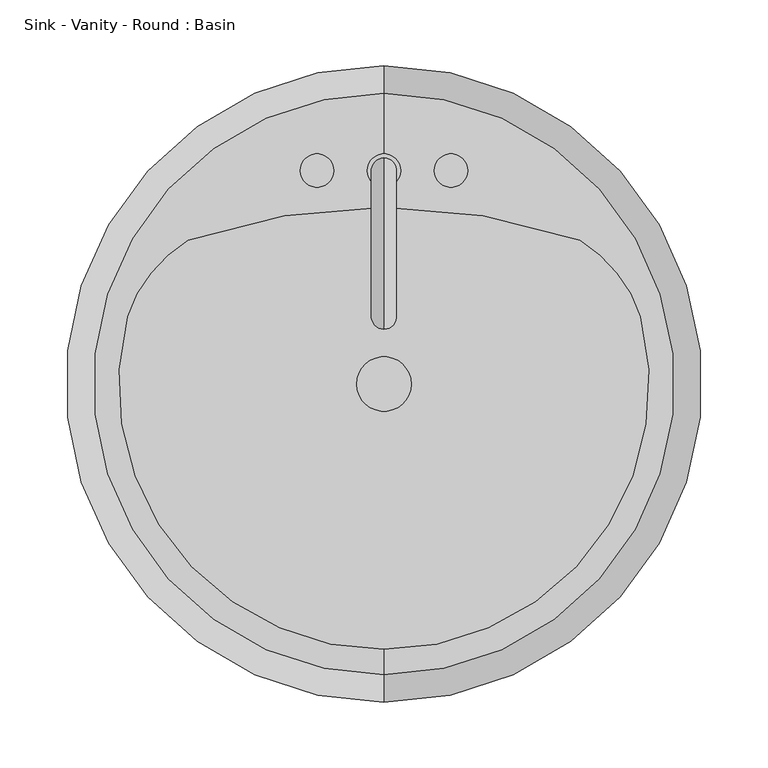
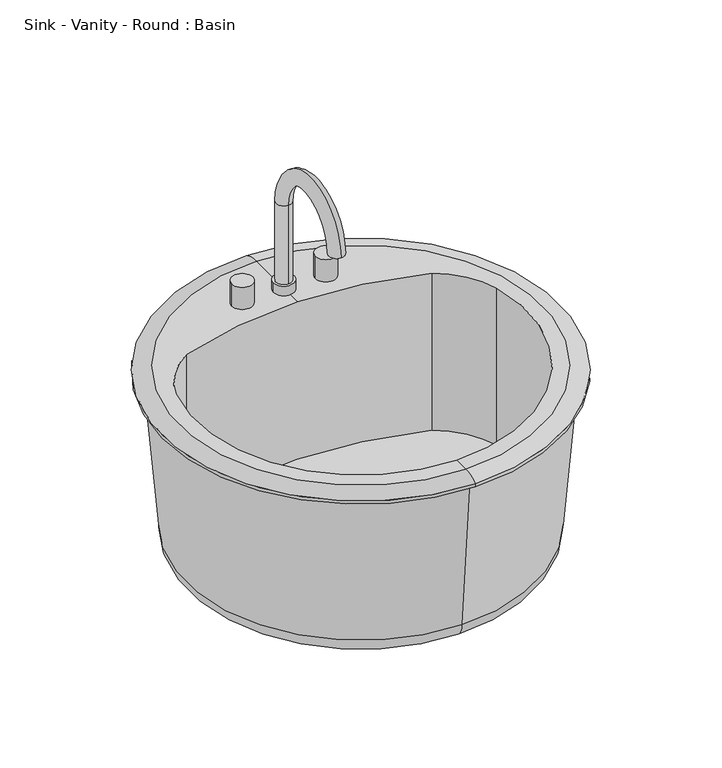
"""IFC4 building model written with IfcOpenShell, lengths in millimetres: flow terminal geometry, Sink - Vanity - Round : Basin."""

from ifc_helpers import new_model, si_unit, point, frame, frame_2d, origin, place, context, project, spatial, polyline, circle_curve, ellipse_curve, trimmed, segment, composite_curve, outline, extrude, source, transform, mapped, element, save
from ifc_brep_helpers import plane_surface, cylinder_surface, revolved_surface, advanced_brep


def sink_vanity_round_basin_6ecf7a68(model_context):
    return source(origin(), model_context, "Body", "SolidModel", [
        advanced_brep(
        [(96.6517406, 237.5677185, 794.525), (96.6517406, 256.6177185, 794.525), (96.6517406, 237.5677185, 907.2375), (96.6517406, 256.6177185, 907.2375), (96.6517406, 145.7775038, 907.2375), (96.6517406, 126.7275038, 907.2375)],
        [
            (0, 1, circle_curve(frame((96.6517406, 247.0927185, 794.525), z_axis=(0.0, 0.0, -1.0), x_axis=(0.0, 1.0, 0.0)), 9.525)),
            (1, 0, circle_curve(frame((96.6517406, 247.0927185, 794.525), z_axis=(0.0, 0.0, -1.0), x_axis=(0.0, 1.0, 0.0)), 9.525)),
            (0, 2),
            (2, 3, circle_curve(frame((96.6517406, 247.0927185, 907.2375), z_axis=(0.0, 0.0, -1.0), x_axis=(0.0, 1.0, 0.0)), 9.525)),
            (3, 1),
            (3, 2, circle_curve(frame((96.6517406, 247.0927185, 907.2375), z_axis=(0.0, 0.0, -1.0), x_axis=(0.0, 1.0, 0.0)), 9.525)),
            (4, 5, circle_curve(frame((96.6517406, 136.2525038, 907.2375), z_axis=(0.0, 0.0, -1.0), x_axis=(0.0, -1.0, 0.0)), 9.525)),
            (5, 4, circle_curve(frame((96.6517406, 136.2525038, 907.2375), z_axis=(0.0, 0.0, -1.0), x_axis=(0.0, -1.0, 0.0)), 9.525)),
            (5, 3, circle_curve(frame((96.6517406, 191.6726112, 907.2375), z_axis=(-1.0, 0.0, 0.0), x_axis=(0.0, 1.0, 0.0)), 64.9451073)),
            (2, 4, circle_curve(frame((96.6517406, 191.6726112, 907.2375), z_axis=(1.0, 0.0, 0.0), x_axis=(0.0, 1.0, 0.0)), 45.8951073)),
        ],
        [
            plane_surface(frame((96.6517406, 237.5677185, 794.525), z_axis=(0.0, 0.0, -1.0), x_axis=(1.0, 0.0, 0.0))),
            cylinder_surface(frame((96.6517406, 247.0927185, 794.525), z_axis=(0.0, 0.0, -1.0), x_axis=(0.0, 1.0, 0.0)), 9.525),
            plane_surface(frame((96.6517406, 191.6726112, 907.2375), z_axis=(0.0, 0.0, -1.0), x_axis=(0.0, -1.0, 0.0))),
            revolved_surface(trimmed(ellipse_curve(frame((96.6517406, 247.0927185, 907.2375), z_axis=(0.0, 0.0, -1.0), x_axis=(0.0, 1.0, 0.0)), 9.525, 9.525), [point((96.6517406, 237.5677185, 907.2375))], [point((96.6517406, 256.6177185, 907.2375))], True, "CARTESIAN"), (96.6517406, 191.6726112, 907.2375), (1.0, 0.0, 0.0)),
            revolved_surface(trimmed(ellipse_curve(frame((96.6517406, 247.0927185, 907.2375), z_axis=(0.0, 0.0, -1.0), x_axis=(0.0, 1.0, 0.0)), 9.525, 9.525), [point((96.6517406, 256.6177185, 907.2375))], [point((96.6517406, 237.5677185, 907.2375))], True, "CARTESIAN"), (96.6517406, 191.6726112, 907.2375), (1.0, 0.0, 0.0)),
        ],
        [
            (0, [[1, 2]]),
            (1, [[-1, 3, 4, 5]]),
            (1, [[-2, -5, 6, -3]]),
            (2, [[7, 8]]),
            (3, [[9, -4, 10, -8]]),
            (4, [[-10, -6, -9, -7]]),
        ],
    ),
        extrude(outline(composite_curve([segment(trimmed(circle_curve(frame_2d((96.6517406, 247.0927185)), 12.7), [point((83.9517406, 247.0927185))], [point((109.3517406, 247.0927185))], False, "CARTESIAN"), True, "CONTINUOUS"), segment(trimmed(circle_curve(frame_2d((96.6517406, 247.0927185)), 12.7), [point((109.3517406, 247.0927185))], [point((83.9517406, 247.0927185))], False, "CARTESIAN"), True, "CONTINUOUS")], self_intersect=False)), frame((0.0, 0.0, 794.525), z_axis=(0.0, 0.0, 1.0), x_axis=(1.0, 0.0, 0.0)), (0.0, 0.0, 1.0), 12.2352909),
        extrude(outline(composite_curve([segment(trimmed(circle_curve(frame_2d((45.8517406, 247.0927185)), 12.7), [point((33.1517406, 247.0927185))], [point((58.5517406, 247.0927185))], False, "CARTESIAN"), True, "CONTINUOUS"), segment(trimmed(circle_curve(frame_2d((45.8517406, 247.0927185)), 12.7), [point((58.5517406, 247.0927185))], [point((33.1517406, 247.0927185))], False, "CARTESIAN"), True, "CONTINUOUS")], self_intersect=False)), frame((0.0, 0.0, 794.525), z_axis=(0.0, 0.0, 1.0), x_axis=(1.0, 0.0, 0.0)), (0.0, 0.0, 1.0), 28.575),
        extrude(outline(composite_curve([segment(trimmed(circle_curve(frame_2d((147.4517406, 247.0927185)), 12.7), [point((134.7517406, 247.0927185))], [point((160.1517406, 247.0927185))], False, "CARTESIAN"), True, "CONTINUOUS"), segment(trimmed(circle_curve(frame_2d((147.4517406, 247.0927185)), 12.7), [point((160.1517406, 247.0927185))], [point((134.7517406, 247.0927185))], False, "CARTESIAN"), True, "CONTINUOUS")], self_intersect=False)), frame((0.0, 0.0, 794.525), z_axis=(0.0, 0.0, 1.0), x_axis=(1.0, 0.0, 0.0)), (0.0, 0.0, 1.0), 28.575),
        extrude(outline(composite_curve([segment(trimmed(circle_curve(frame_2d((96.6517406, 85.1677185)), 20.6375), [point((76.0142406, 85.1677185))], [point((117.2892406, 85.1677185))], False, "CARTESIAN"), True, "CONTINUOUS"), segment(trimmed(circle_curve(frame_2d((96.6517406, 85.1677185)), 20.6375), [point((117.2892406, 85.1677185))], [point((76.0142406, 85.1677185))], False, "CARTESIAN"), True, "CONTINUOUS")], self_intersect=False)), frame((0.0, 0.0, 569.1), z_axis=(0.0, 0.0, 1.0), x_axis=(1.0, 0.0, 0.0)), (0.0, 0.0, 1.0), 23.5842611),
        advanced_brep(
        [(96.6517406, -135.3870093, 794.525), (96.6517406, 305.7224463, 794.525), (96.6517406, 326.4677185, 788.96875), (96.6517406, -156.1322815, 788.96875), (96.6517406, -116.2405705, 794.525), (-98.1703414, 136.2525038, 794.525), (-52.1534933, 194.0861398, 794.525), (96.6517406, 219.2662048, 794.525), (245.4569744, 194.0861398, 794.525), (291.4738225, 136.2525038, 794.525), (96.6517406, -107.1264028, 569.1), (96.6517406, 277.4618398, 569.1), (96.6517406, 85.1677185, 569.1), (96.6517406, -127.6827361, 590.2842611), (96.6517406, 298.0181731, 590.2842611), (96.6517406, -144.2260315, 785.0), (96.6517406, 314.5614685, 785.0), (96.6517406, -156.1322815, 785.0), (96.6517406, 326.4677185, 785.0), (245.4569744, 194.0861398, 592.6842611), (-52.1534933, 194.0861398, 592.6842611), (-98.1703414, 136.2525038, 592.6842611), (291.4738225, 136.2525038, 592.6842611)],
        [
            (0, 1, circle_curve(frame((96.6517406, 85.1677185, 794.525), z_axis=(0.0, 0.0, -1.0), x_axis=(0.0, 1.0, 0.0)), 220.5547278)),
            (1, 2, circle_curve(frame((96.6517406, 309.4374616, 766.889434), z_axis=(-1.0, 0.0, 0.0), x_axis=(0.0, 1.0, 0.0)), 27.8841505)),
            (2, 3, circle_curve(frame((96.6517406, 85.1677185, 788.96875), z_axis=(0.0, 0.0, 1.0), x_axis=(0.0, 1.0, 0.0)), 241.3)),
            (3, 0, circle_curve(frame((96.6517406, -139.1020246, 766.889434), z_axis=(-1.0, 0.0, 0.0), x_axis=(0.0, -1.0, 0.0)), 27.8841505)),
            (1, 0, circle_curve(frame((96.6517406, 85.1677185, 794.525), z_axis=(0.0, 0.0, -1.0), x_axis=(0.0, 1.0, 0.0)), 220.5547278)),
            (3, 2, circle_curve(frame((96.6517406, 85.1677185, 788.96875), z_axis=(0.0, 0.0, 1.0), x_axis=(0.0, 1.0, 0.0)), 241.3)),
            (0, 4),
            (4, 5, circle_curve(frame((96.6517406, 85.1677185, 794.525), z_axis=(0.0, 0.0, -1.0), x_axis=(1.0, 0.0, 0.0)), 201.408289)),
            (5, 6, circle_curve(frame((1.3689689, 104.2755165, 794.525), z_axis=(0.0, 0.0, -1.0), x_axis=(1.0, 0.0, 0.0)), 104.5495194)),
            (6, 7, circle_curve(frame((96.6517406, -233.0168462, 794.525), z_axis=(0.0, 0.0, -1.0), x_axis=(1.0, 0.0, 0.0)), 452.283051)),
            (7, 1),
            (7, 8, circle_curve(frame((96.6517406, -233.0168462, 794.525), z_axis=(0.0, 0.0, -1.0), x_axis=(1.0, 0.0, 0.0)), 452.283051)),
            (8, 9, circle_curve(frame((191.9345122, 104.2755165, 794.525), z_axis=(0.0, 0.0, -1.0), x_axis=(1.0, 0.0, 0.0)), 104.5495194)),
            (9, 4, circle_curve(frame((96.6517406, 85.1677185, 794.525), z_axis=(0.0, 0.0, -1.0), x_axis=(1.0, 0.0, 0.0)), 201.408289)),
            (10, 11, circle_curve(frame((96.6517406, 85.1677185, 569.1), z_axis=(0.0, 0.0, -1.0), x_axis=(0.0, 1.0, 0.0)), 192.2941213)),
            (11, 12),
            (12, 10),
            (11, 10, circle_curve(frame((96.6517406, 85.1677185, 569.1), z_axis=(0.0, 0.0, -1.0), x_axis=(0.0, 1.0, 0.0)), 192.2941213)),
            (10, 13, circle_curve(frame((96.6517406, -107.1264028, 589.6656396), z_axis=(-1.0, 0.0, 0.0), x_axis=(0.0, -1.0, 0.0)), 20.5656396)),
            (13, 14, circle_curve(frame((96.6517406, 85.1677185, 590.2842611), z_axis=(0.0, 0.0, -1.0), x_axis=(0.0, 1.0, 0.0)), 212.8504546)),
            (14, 11, circle_curve(frame((96.6517406, 277.4618398, 589.6656396), z_axis=(-1.0, 0.0, 0.0), x_axis=(0.0, 1.0, 0.0)), 20.5656396)),
            (14, 13, circle_curve(frame((96.6517406, 85.1677185, 590.2842611), z_axis=(0.0, 0.0, -1.0), x_axis=(0.0, 1.0, 0.0)), 212.8504546)),
            (13, 15),
            (15, 16, circle_curve(frame((96.6517406, 85.1677185, 785.0), z_axis=(0.0, 0.0, -1.0), x_axis=(0.0, 1.0, 0.0)), 229.39375)),
            (16, 14),
            (16, 15, circle_curve(frame((96.6517406, 85.1677185, 785.0), z_axis=(0.0, 0.0, -1.0), x_axis=(0.0, 1.0, 0.0)), 229.39375)),
            (15, 17),
            (17, 18, circle_curve(frame((96.6517406, 85.1677185, 785.0), z_axis=(0.0, 0.0, -1.0), x_axis=(0.0, 1.0, 0.0)), 241.3)),
            (18, 16),
            (18, 17, circle_curve(frame((96.6517406, 85.1677185, 785.0), z_axis=(0.0, 0.0, -1.0), x_axis=(0.0, 1.0, 0.0)), 241.3)),
            (2, 18),
            (17, 3),
            (19, 20, circle_curve(frame((96.6517406, -233.0168462, 592.6842611), z_axis=(0.0, 0.0, 1.0), x_axis=(1.0, 0.0, 0.0)), 452.283051)),
            (20, 21, circle_curve(frame((1.3689689, 104.2755165, 592.6842611), z_axis=(0.0, 0.0, 1.0), x_axis=(1.0, 0.0, 0.0)), 104.5495194)),
            (21, 22, circle_curve(frame((96.6517406, 85.1677185, 592.6842611), z_axis=(0.0, 0.0, 1.0), x_axis=(1.0, 0.0, 0.0)), 201.408289)),
            (22, 19, circle_curve(frame((191.9345122, 104.2755165, 592.6842611), z_axis=(0.0, 0.0, 1.0), x_axis=(1.0, 0.0, 0.0)), 104.5495194)),
            (19, 8),
            (6, 20),
            (5, 21),
            (9, 22),
        ],
        [
            revolved_surface(trimmed(ellipse_curve(frame((96.6517406, 309.4374616, 766.889434), z_axis=(1.0, 0.0, 0.0), x_axis=(0.0, 1.0, 0.0)), 27.8841505, 27.8841505), [point((96.6517406, 326.4677185, 788.96875))], [point((96.6517406, 305.7224463, 794.525))], True, "CARTESIAN"), (96.6517406, 85.1677185, 794.525), (0.0, 0.0, 1.0)),
            plane_surface(frame((96.6517406, 85.1677185, 794.525), z_axis=(0.0, 0.0, 1.0), x_axis=(0.0, 1.0, 0.0))),
            plane_surface(frame((96.6517406, 85.1677185, 569.1), z_axis=(0.0, 0.0, -1.0), x_axis=(0.0, 1.0, 0.0))),
            revolved_surface(trimmed(ellipse_curve(frame((96.6517406, 277.4618398, 589.6656396), z_axis=(1.0, 0.0, 0.0), x_axis=(0.0, 1.0, 0.0)), 20.5656396, 20.5656396), [point((96.6517406, 277.4618398, 569.1))], [point((96.6517406, 298.0181731, 590.2842611))], True, "CARTESIAN"), (96.6517406, 85.1677185, 794.525), (0.0, 0.0, 1.0)),
            revolved_surface(polyline([(96.6517406, 298.0181731, 590.2842611), (96.6517406, 314.5614685, 785.0)]), (96.6517406, 85.1677185, 794.525), (0.0, 0.0, 1.0)),
            plane_surface(frame((96.6517406, 85.1677185, 785.0), z_axis=(0.0, 0.0, -1.0), x_axis=(0.0, 1.0, 0.0))),
            cylinder_surface(frame((96.6517406, 85.1677185, 794.525), z_axis=(0.0, 0.0, 1.0), x_axis=(0.0, 1.0, 0.0)), 241.3),
            plane_surface(frame((548.9347916, -233.0168462, 592.6842611), z_axis=(0.0, 0.0, 1.0), x_axis=(0.0, -1.0, 0.0))),
            revolved_surface(polyline([(548.9347916, -233.0168462, 794.525), (548.9347916, -233.0168462, 592.6842611)]), (96.6517406, -233.0168462, 592.6842611), (0.0, 0.0, 1.0)),
            revolved_surface(polyline([(105.91848829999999, 104.2755165, 794.525), (105.91848829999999, 104.2755165, 592.6842611)]), (1.3689689, 104.2755165, 592.6842611), (0.0, 0.0, 1.0)),
            revolved_surface(polyline([(298.0600296, 85.1677185, 794.525), (298.0600296, 85.1677185, 592.6842611)]), (96.6517406, 85.1677185, 592.6842611), (0.0, 0.0, 1.0)),
            revolved_surface(polyline([(296.4840316, 104.2755165, 794.525), (296.4840316, 104.2755165, 592.6842611)]), (191.9345122, 104.2755165, 592.6842611), (0.0, 0.0, 1.0)),
        ],
        [
            (0, [[1, 2, 3, 4]]),
            (0, [[-2, 5, -4, 6]]),
            (1, [[-1, 7, 8, 9, 10, 11]]),
            (1, [[-5, -11, 12, 13, 14, -7]]),
            (2, [[15, 16, 17]]),
            (2, [[-16, 18, -17]]),
            (3, [[-15, 19, 20, 21]]),
            (3, [[-18, -21, 22, -19]]),
            (4, [[-20, 23, 24, 25]]),
            (4, [[-22, -25, 26, -23]]),
            (5, [[-24, 27, 28, 29]]),
            (5, [[-26, -29, 30, -27]]),
            (6, [[-3, 31, -28, 32]]),
            (6, [[-6, -32, -30, -31]]),
            (7, [[33, 34, 35, 36]]),
            (8, [[-33, 37, -12, -10, 38]]),
            (9, [[-34, -38, -9, 39]]),
            (10, [[-35, -39, -8, -14, 40]]),
            (11, [[-36, -40, -13, -37]]),
        ],
    ),
    ])


if __name__ == "__main__":
    model = new_model("IFC4")
    model_context = context("Model", 3, world=origin())
    ifc_project = project(units=[si_unit("LENGTHUNIT", "METRE", prefix="MILLI")], contexts=[model_context])
    site = spatial("IfcSite", under=ifc_project)
    building = spatial("IfcBuilding", under=site)
    placement = place(None, origin())
    sink_vanity_round_basin_shape = sink_vanity_round_basin_6ecf7a68(model_context)
    element("IfcFlowTerminal", 1, ObjectType="Sink - Vanity - Round : Basin", at=placement, inside=building, context=model_context, shape_type="MappedRepresentation", body=[
        mapped(sink_vanity_round_basin_shape, transform((0.0, 0.0, 0.0), x_axis=(1.0, 0.0, 0.0), y_axis=(0.0, 1.0, 0.0), z_axis=(0.0, 0.0, 1.0))),
    ])
    save(model, "model.ifc")
